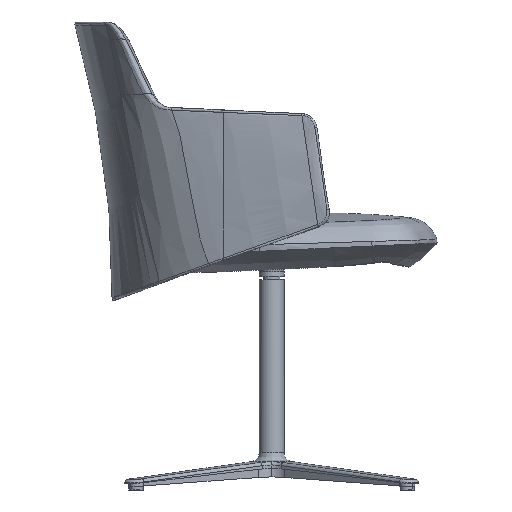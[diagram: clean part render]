
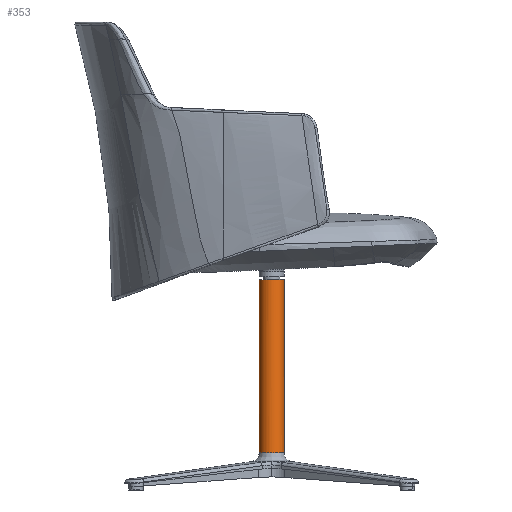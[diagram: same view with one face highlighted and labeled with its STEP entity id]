
A CAD part, left-side view. The second image highlights one B-rep face of the part: STEP entity #353.
In plain terms, the highlighted free-form (B-spline) face has degree [2, 1] with [5, 2] control points.
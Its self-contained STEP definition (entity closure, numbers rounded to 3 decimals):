
#353=ADVANCED_FACE('',(#576),#3633,.T.);
#576=FACE_OUTER_BOUND('',#799,.T.);
#799=EDGE_LOOP('',(#1895,#1896,#1897,#1898));
#1895=ORIENTED_EDGE('',*,*,#2536,.T.);
#1896=ORIENTED_EDGE('',*,*,#2520,.T.);
#1897=ORIENTED_EDGE('',*,*,#2331,.T.);
#1898=ORIENTED_EDGE('',*,*,#2535,.F.);
#2331=EDGE_CURVE('',#3412,#3526,#3105,.T.);
#2520=EDGE_CURVE('',#3525,#3412,#2694,.T.);
#2535=EDGE_CURVE('',#3535,#3526,#2707,.T.);
#2536=EDGE_CURVE('',#3535,#3525,#2708,.T.);
#2694=(
BOUNDED_CURVE()
B_SPLINE_CURVE(1,(#57752,#57753),.UNSPECIFIED.,.F.,.F.)
B_SPLINE_CURVE_WITH_KNOTS((2,2),(0.,280.),.UNSPECIFIED.)
CURVE()
GEOMETRIC_REPRESENTATION_ITEM()
RATIONAL_B_SPLINE_CURVE((1.,1.))
REPRESENTATION_ITEM('')
);
#2707=(
BOUNDED_CURVE()
B_SPLINE_CURVE(1,(#57869,#57870),.UNSPECIFIED.,.F.,.F.)
B_SPLINE_CURVE_WITH_KNOTS((2,2),(0.,280.),.UNSPECIFIED.)
CURVE()
GEOMETRIC_REPRESENTATION_ITEM()
RATIONAL_B_SPLINE_CURVE((1.,1.))
REPRESENTATION_ITEM('')
);
#2708=(
BOUNDED_CURVE()
B_SPLINE_CURVE(2,(#57871,#57872,#57873,#57874,#57875),.UNSPECIFIED.,.F.,
 .F.)
B_SPLINE_CURVE_WITH_KNOTS((3,2,3),(-62.832,-31.416,
0.),.UNSPECIFIED.)
CURVE()
GEOMETRIC_REPRESENTATION_ITEM()
RATIONAL_B_SPLINE_CURVE((1.,0.707,1.,0.707,1.))
REPRESENTATION_ITEM('')
);
#3105=B_SPLINE_CURVE_WITH_KNOTS('',3,(#56135,#56136,#56137,#56138,#56139,
#56140,#56141,#56142,#56143,#56144,#56145,#56146,#56147,#56148,#56149,#56150,
#56151,#56152,#56153),.UNSPECIFIED.,.F.,.F.,(4,1,2,2,2,2,2,2,2,4),(-169.646,
-164.344,-159.043,-148.44,-137.837,
-127.234,-116.631,-106.029,-95.426,
-84.823),.UNSPECIFIED.);
#3412=VERTEX_POINT('',#55996);
#3525=VERTEX_POINT('',#56109);
#3526=VERTEX_POINT('',#56110);
#3535=VERTEX_POINT('',#56119);
#3633=(
BOUNDED_SURFACE()
B_SPLINE_SURFACE(2,1,((#55985,#55986),(#55987,#55988),(#55989,#55990),(#55991,
#55992),(#55993,#55994)),.UNSPECIFIED.,.F.,.F.,.F.)
B_SPLINE_SURFACE_WITH_KNOTS((3,2,3),(2,2),(-62.832,-31.416,
0.),(0.,280.),.UNSPECIFIED.)
GEOMETRIC_REPRESENTATION_ITEM()
RATIONAL_B_SPLINE_SURFACE(((1.,1.),(0.707,0.707),
(1.,1.),(0.707,0.707),(1.,1.)))
REPRESENTATION_ITEM('')
SURFACE()
);
#55985=CARTESIAN_POINT('',(0.,29.453,325.742));
#55986=CARTESIAN_POINT('',(0.,29.453,45.742));
#55987=CARTESIAN_POINT('',(-20.,29.453,325.742));
#55988=CARTESIAN_POINT('',(-20.,29.453,45.742));
#55989=CARTESIAN_POINT('',(-20.,49.453,325.742));
#55990=CARTESIAN_POINT('',(-20.,49.453,45.742));
#55991=CARTESIAN_POINT('',(-20.,69.453,325.742));
#55992=CARTESIAN_POINT('',(-20.,69.453,45.742));
#55993=CARTESIAN_POINT('',(0.,69.453,325.742));
#55994=CARTESIAN_POINT('',(0.,69.453,45.742));
#55996=CARTESIAN_POINT('',(0.,69.453,45.742));
#56109=CARTESIAN_POINT('',(0.,69.453,325.742));
#56110=CARTESIAN_POINT('',(0.,29.452,45.742));
#56119=CARTESIAN_POINT('',(0.,29.453,325.742));
#56135=CARTESIAN_POINT('',(0.,69.453,45.742));
#56136=CARTESIAN_POINT('',(-1.309,69.453,45.742));
#56137=CARTESIAN_POINT('',(-3.927,69.195,45.742));
#56138=CARTESIAN_POINT('',(-6.444,68.432,45.742));
#56139=CARTESIAN_POINT('',(-10.073,66.93,45.742));
#56140=CARTESIAN_POINT('',(-12.292,65.447,45.742));
#56141=CARTESIAN_POINT('',(-15.994,61.745,45.742));
#56142=CARTESIAN_POINT('',(-17.477,59.526,45.742));
#56143=CARTESIAN_POINT('',(-19.48,54.688,45.742));
#56144=CARTESIAN_POINT('',(-20.001,52.072,45.742));
#56145=CARTESIAN_POINT('',(-20.001,46.835,45.742));
#56146=CARTESIAN_POINT('',(-19.48,44.218,45.742));
#56147=CARTESIAN_POINT('',(-17.477,39.38,45.742));
#56148=CARTESIAN_POINT('',(-15.994,37.162,45.742));
#56149=CARTESIAN_POINT('',(-12.292,33.459,45.742));
#56150=CARTESIAN_POINT('',(-10.073,31.977,45.742));
#56151=CARTESIAN_POINT('',(-5.235,29.973,45.742));
#56152=CARTESIAN_POINT('',(-2.619,29.452,45.742));
#56153=CARTESIAN_POINT('',(0.,29.452,45.742));
#57752=CARTESIAN_POINT('',(0.,69.453,325.742));
#57753=CARTESIAN_POINT('',(0.,69.453,45.742));
#57869=CARTESIAN_POINT('',(0.,29.453,325.742));
#57870=CARTESIAN_POINT('',(0.,29.453,45.742));
#57871=CARTESIAN_POINT('',(0.,29.453,325.742));
#57872=CARTESIAN_POINT('',(-20.,29.453,325.742));
#57873=CARTESIAN_POINT('',(-20.,49.453,325.742));
#57874=CARTESIAN_POINT('',(-20.,69.453,325.742));
#57875=CARTESIAN_POINT('',(0.,69.453,325.742));
